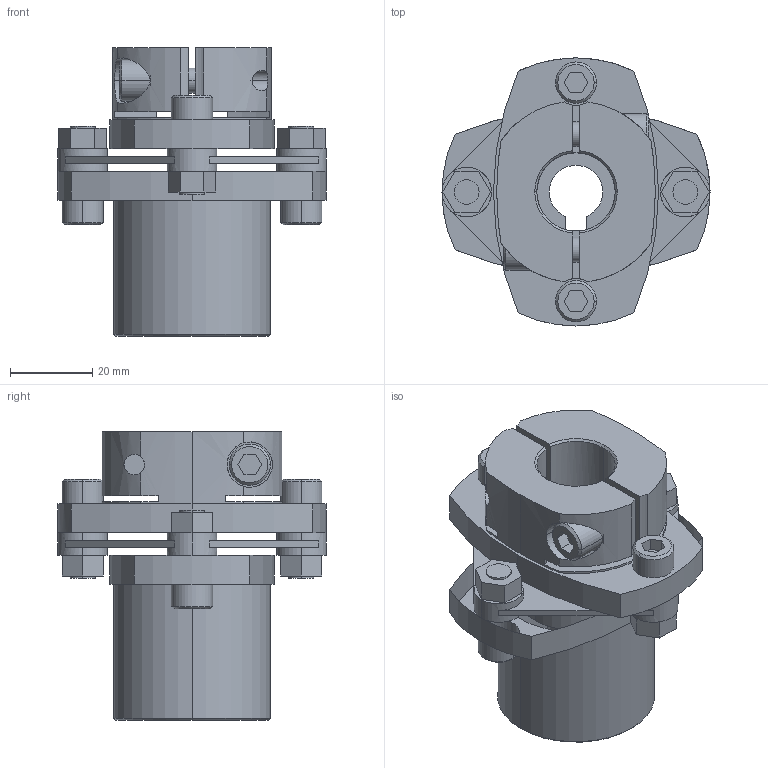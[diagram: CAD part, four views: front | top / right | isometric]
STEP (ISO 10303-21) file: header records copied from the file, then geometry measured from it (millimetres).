
FILE_DESCRIPTION((''),'2;1');
FILE_NAME('LCS-65M-16L亊19B.stp','2015-10-28T03:08:21',(''),(''),'AutoCAD STEP 2000i','AutoCAD 2000i',', , ');
FILE_SCHEMA(('CONFIG_CONTROL_DESIGN'));
Length unit declared in the file: millimetre
Products named in the file (8): LCS-65M-16L×16B; 忣兜1; LC65-B016; LC65M-L016; LC65M-L011; LC65-B014-1; LC65-B014; LCS65-ITA
Assembly tree (7 placements, depth 2):
  LCS-65M-16L×16B
    忣兜1
    LC65-B016
    LC65M-L016
    LC65M-L011
    LC65-B014-1
    LC65-B014
    LCS65-ITA
Bounding box: 65 x 65 x 70 mm (x, y, z)
Volume: 81033.1 mm3; surface area: 29283.6 mm2
Topology: 1 solids, 1 shells, 222 faces, 582 edges, 380 vertices
Faces by surface type: plane 115, cylinder 84, cone 23
Entity records: 7357 total; most frequent: CARTESIAN_POINT 1500, DIRECTION 1244, ORIENTED_EDGE 1164, EDGE_CURVE 582, AXIS2_PLACEMENT_3D 454, VERTEX_POINT 380, VECTOR 336, LINE 336
